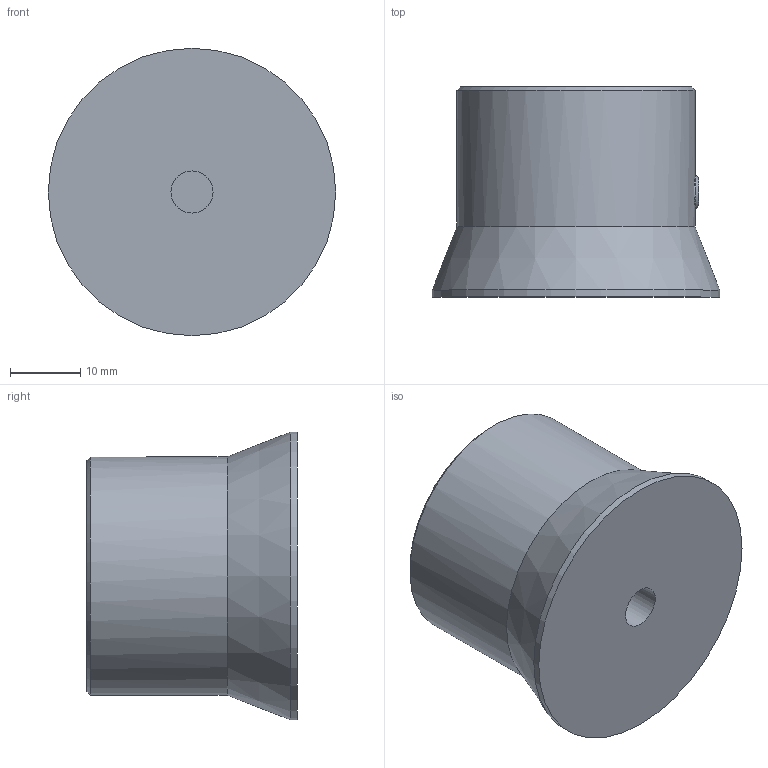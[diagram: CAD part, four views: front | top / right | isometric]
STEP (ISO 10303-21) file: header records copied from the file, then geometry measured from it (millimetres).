
FILE_DESCRIPTION( ( 'STEP AP203' ), '1' );
FILE_NAME( 'C:/Temp/Ganter_Step_05_03_2020/data/1_4/gn_726_2/gn_726_2_a/gn_726_2_a_1/Control knob GN 726.2-34-B6-A-1.stp', '2020-03-05T10:49:58', ( 'License CC BY-ND 4.0' ), ( 'CADENAS' ), ' ', 'PARTsolutions', ' ' );
FILE_SCHEMA( ( 'CONFIG_CONTROL_DESIGN' ) );
Length unit declared in the file: millimetre
Products named in the file (1): _Control knob GN 726.2-34-B6-A-1
Bounding box: 41 x 30 x 41 mm (x, y, z)
Volume: 28356.9 mm3; surface area: 6164.4 mm2
Topology: 1 solids, 1 shells, 131 faces, 373 edges, 247 vertices
Faces by surface type: cylinder 81, plane 37, cone 13
Full cylindrical faces by diameter (mm): 6 x1, 34 x1, 41 x1
Entity records: 4568 total; most frequent: CARTESIAN_POINT 1189, ORIENTED_EDGE 732, DIRECTION 671, EDGE_CURVE 366, AXIS2_PLACEMENT_3D 263, VERTEX_POINT 246, LINE 145, VECTOR 145
